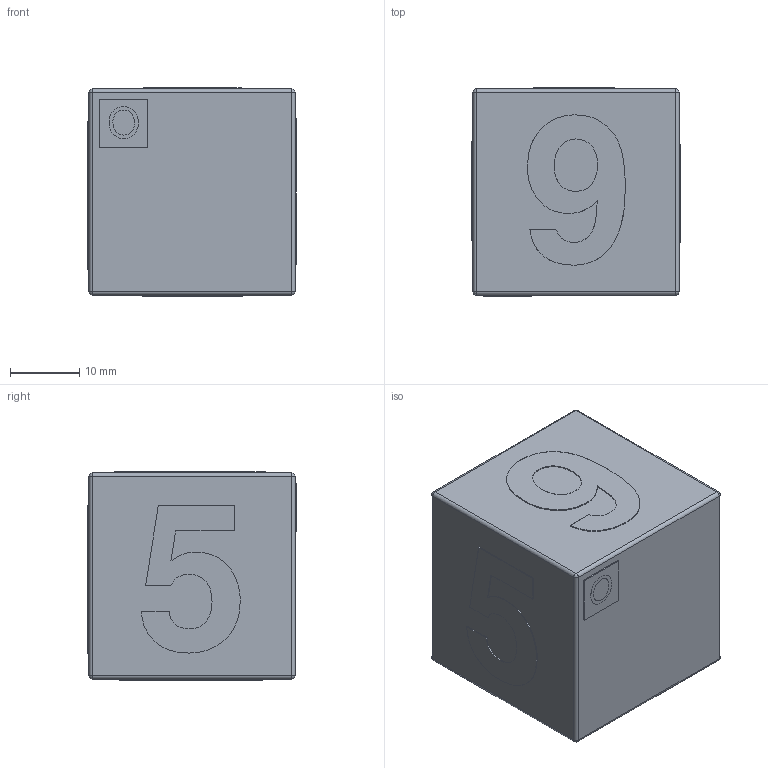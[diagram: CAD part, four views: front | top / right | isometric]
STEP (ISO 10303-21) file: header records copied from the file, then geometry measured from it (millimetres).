
FILE_DESCRIPTION(('Open CASCADE Model'),'2;1');
FILE_NAME('Open CASCADE Shape Model','2025-09-14T20:47:15',('Author'),( 'Open CASCADE'),'Open CASCADE STEP processor 7.8','Open CASCADE 7.8' ,'Unknown');
FILE_SCHEMA(('AUTOMOTIVE_DESIGN { 1 0 10303 214 1 1 1 1 }'));
Length unit declared in the file: millimetre
Products named in the file (18): 9d2f44b8-91a3-11f0-88d2-1c1b0deae66b; 9d2f465c-91a3-11f0-88d2-1c1b0deae66b; 9d2f465c-91a3-11f0-88d2-1c1b0deae66b_part; 9d31c904-91a3-11f0-88d2-1c1b0deae66b; 9d31c904-91a3-11f0-88d2-1c1b0deae66b_part; 9d333a00-91a3-11f0-88d2-1c1b0deae66b; 9d333a00-91a3-11f0-88d2-1c1b0deae66b_part; 9d34a2f0-91a3-11f0-88d2-1c1b0deae66b; 9d34a2f0-91a3-11f0-88d2-1c1b0deae66b_part; 9d366b12-91a3-11f0-88d2-1c1b0deae66b; 9d366b12-91a3-11f0-88d2-1c1b0deae66b_part; 9d37a31a-91a3-11f0-88d2-1c1b0deae66b; 9d37a31a-91a3-11f0-88d2-1c1b0deae66b_part; 9d432474-91a3-11f0-88d2-1c1b0deae66b; 9d432474-91a3-11f0-88d2-1c1b0deae66b_part; 9d432622-91a3-11f0-88d2-1c1b0deae66b; 9d432622-91a3-11f0-88d2-1c1b0deae66b_part
Assembly tree (17 placements, depth 4):
  9d2f44b8-91a3-11f0-88d2-1c1b0deae66b
    9d2f44b8-91a3-11f0-88d2-1c1b0deae66b
      9d2f465c-91a3-11f0-88d2-1c1b0deae66b
        9d2f465c-91a3-11f0-88d2-1c1b0deae66b_part
      9d31c904-91a3-11f0-88d2-1c1b0deae66b
        9d31c904-91a3-11f0-88d2-1c1b0deae66b_part
      9d333a00-91a3-11f0-88d2-1c1b0deae66b
        9d333a00-91a3-11f0-88d2-1c1b0deae66b_part
      9d34a2f0-91a3-11f0-88d2-1c1b0deae66b
        9d34a2f0-91a3-11f0-88d2-1c1b0deae66b_part
      9d366b12-91a3-11f0-88d2-1c1b0deae66b
        9d366b12-91a3-11f0-88d2-1c1b0deae66b_part
      9d37a31a-91a3-11f0-88d2-1c1b0deae66b
        9d37a31a-91a3-11f0-88d2-1c1b0deae66b_part
      9d432474-91a3-11f0-88d2-1c1b0deae66b
        9d432474-91a3-11f0-88d2-1c1b0deae66b_part
      9d432622-91a3-11f0-88d2-1c1b0deae66b
        9d432622-91a3-11f0-88d2-1c1b0deae66b_part
Bounding box: 30 x 30 x 30 mm (x, y, z)
Volume: 26306.5 mm3; surface area: 6997.8 mm2
Topology: 9 solids, 9 shells, 188 faces, 494 edges, 316 vertices
Faces by surface type: extrusion 109, plane 59, cylinder 12, sphere 8
Entity records: 12491 total; most frequent: CARTESIAN_POINT 3102, DIRECTION 1317, VECTOR 1075, ORIENTED_EDGE 972, PCURVE 972, DEFINITIONAL_REPRESENTATION 972, LINE 966, B_SPLINE_CURVE_WITH_KNOTS 577
